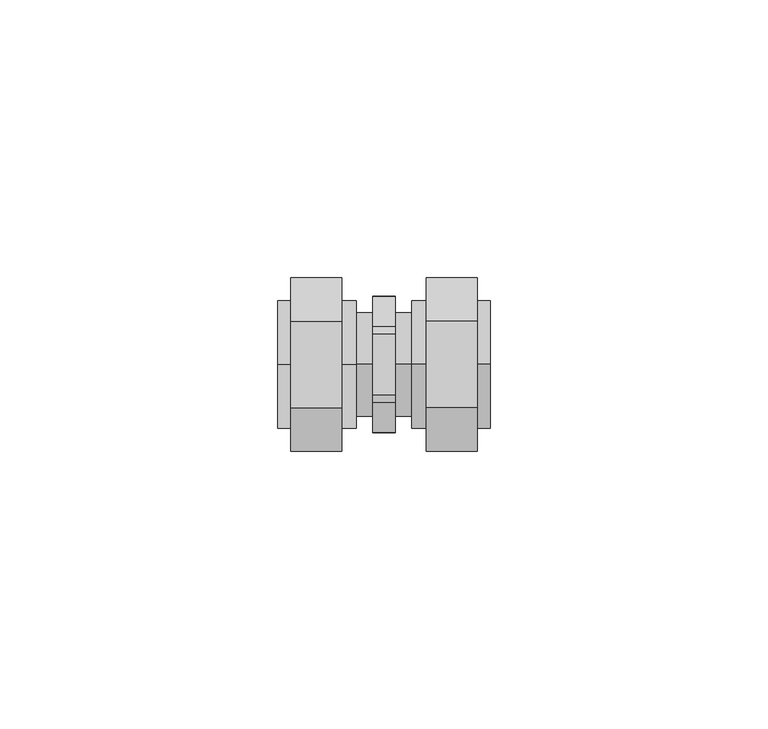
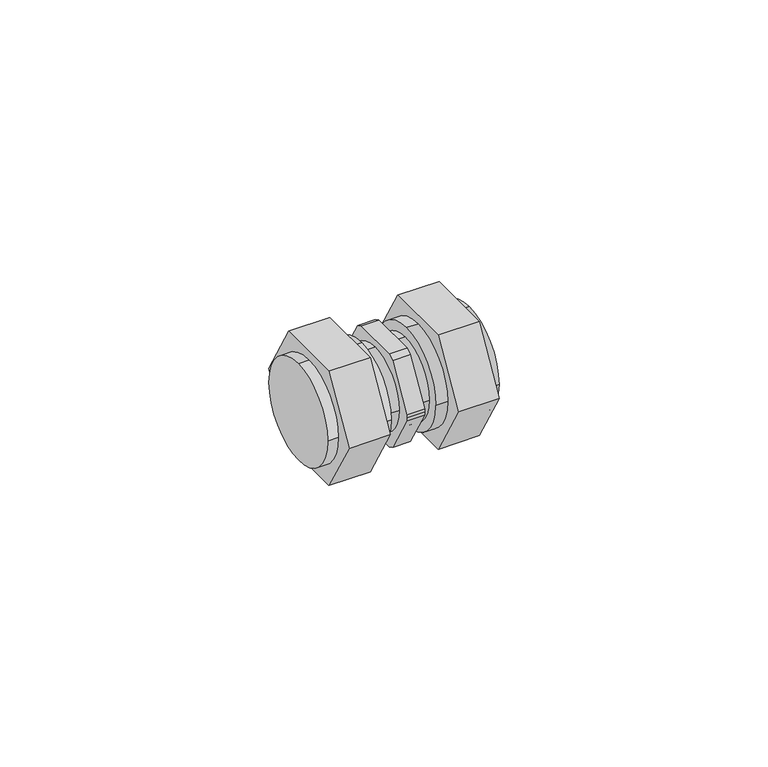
"""IFC4 building model written with IfcOpenShell, lengths in millimetres: pipe fitting geometry, HC-Kształtka-ParaForma-Tweetop-PERT-Złączka : Tweetop."""

import ifcopenshell
import ifcopenshell.guid

model = None  # the IFC model being written
_history = None  # IfcOwnerHistory: only IFC2X3 demands one
_inside = {}  # id of a spatial element -> (the spatial element, [elements in it])
_under = {}  # id of a project, library or spatial element -> (it, [spatial elements below it])
_declared = {}  # id of a project -> (the project, [libraries it declares])
_typed = {}  # id of a type object -> (the type object, [elements of that type])
_made_of = {}  # id of a material, layer set ... -> (it, [elements and type objects made of it])


def new_model(schema):
    """Start an empty IFC model of exactly this schema.

    Asked for "IFC4X3", IfcOpenShell would pick the latest addendum, in which some entities
    have other attributes; the version numbers below select the first issue.
    IFC2X3 requires an IfcOwnerHistory on every rooted entity: one is made here for all.
    """
    global model, _history
    if schema == "IFC4X3":
        model = ifcopenshell.file(schema_version=(4, 3, 0, 0))
    else:
        model = ifcopenshell.file(schema=schema)
    _inside.clear()
    _under.clear()
    _declared.clear()
    _typed.clear()
    _made_of.clear()
    _history = None
    if model.schema == "IFC2X3":
        org = make("IfcOrganization", Name="unknown")
        user = make(
            "IfcPersonAndOrganization",
            ThePerson=make("IfcPerson", FamilyName="unknown"),
            TheOrganization=org,
        )
        app = make(
            "IfcApplication",
            ApplicationDeveloper=org,
            Version="unknown",
            ApplicationFullName="unknown",
            ApplicationIdentifier="unknown",
        )
        _history = make(
            "IfcOwnerHistory",
            OwningUser=user,
            OwningApplication=app,
            ChangeAction="ADDED",
            CreationDate=0,
        )
    return model


def make(cls, **values):
    """One entity of the class cls with the attributes given. An attribute that is None is left unset."""
    return model.create_entity(
        cls, **{name: value for name, value in values.items() if value is not None}
    )


def rooted(cls, **values):
    """An entity with a GlobalId (a new one), such as an element, a storey or a relation."""
    return make(cls, GlobalId=ifcopenshell.guid.new(), OwnerHistory=_history, **values)


def si_unit(unit_type, name, prefix=None):
    """IfcSIUnit, for example si_unit("LENGTHUNIT", "METRE", prefix="MILLI")."""
    return make("IfcSIUnit", UnitType=unit_type, Prefix=prefix, Name=name)


def assignment(units):
    """IfcUnitAssignment: the units of a project."""
    return None if units is None else make("IfcUnitAssignment", Units=units)


def point(xyz):
    """IfcCartesianPoint."""
    return None if xyz is None else make("IfcCartesianPoint", Coordinates=xyz)


def direction(xyz):
    """IfcDirection."""
    return None if xyz is None else make("IfcDirection", DirectionRatios=xyz)


def frame(location, z_axis=None, x_axis=None):
    """IfcAxis2Placement3D, a coordinate frame: its origin and axes. An axis left out is left unset."""
    return make(
        "IfcAxis2Placement3D",
        Location=point(location),
        Axis=direction(z_axis),
        RefDirection=direction(x_axis),
    )


def origin():
    """The frame at (0, 0, 0) with its axes left unset."""
    return frame((0.0, 0.0, 0.0))


def place(relative_to, where):
    """IfcLocalPlacement: puts the frame where relative to a parent placement (None: the world)."""
    return make(
        "IfcLocalPlacement", PlacementRelTo=relative_to, RelativePlacement=where
    )


def context(
    kind, dimensions, precision=None, world=None, true_north=None, identifier=None
):
    """IfcGeometricRepresentationContext, for example the 3D "Model" context."""
    return make(
        "IfcGeometricRepresentationContext",
        ContextIdentifier=identifier,
        ContextType=kind,
        CoordinateSpaceDimension=dimensions,
        Precision=precision,
        WorldCoordinateSystem=world,
        TrueNorth=true_north,
    )


def project(units=None, contexts=None):
    """IfcProject with its units and contexts."""
    return rooted(
        "IfcProject",
        Name="project",
        RepresentationContexts=contexts,
        UnitsInContext=assignment(units),
    )


def spatial(cls, under=None, at=None, **own):
    """A site, building, storey or space (cls), placed at a placement, below another one or the project."""
    s = rooted(cls, ObjectPlacement=at, **own)
    if under is not None:
        _under.setdefault(under.id(), (under, []))[1].append(s)
    return s


def circle_curve(where, radius):
    """IfcCircle in the frame where."""
    return make("IfcCircle", Position=where, Radius=radius)


def shape(context_of_items, identifier, shape_type, items):
    """IfcShapeRepresentation: the items that make up one representation, for example the "Body"."""
    return make(
        "IfcShapeRepresentation",
        ContextOfItems=context_of_items,
        RepresentationIdentifier=identifier,
        RepresentationType=shape_type,
        Items=items,
    )


def source(mapping_origin, context_of_items, identifier, shape_type, items):
    """IfcRepresentationMap: a shape defined once, which mapped items show again and again."""
    return make(
        "IfcRepresentationMap",
        MappingOrigin=mapping_origin,
        MappedRepresentation=shape(context_of_items, identifier, shape_type, items),
    )


def transform(
    local_origin,
    x_axis=None,
    y_axis=None,
    z_axis=None,
    scale=None,
    scale2=None,
    scale3=None,
    uniform=True,
):
    """IfcCartesianTransformationOperator3D, or its non-uniform kind. x_axis, y_axis, z_axis: its Axis1, 2, 3."""
    if uniform:
        return make(
            "IfcCartesianTransformationOperator3D",
            Axis1=direction(x_axis),
            Axis2=direction(y_axis),
            LocalOrigin=point(local_origin),
            Scale=scale,
            Axis3=direction(z_axis),
        )
    return make(
        "IfcCartesianTransformationOperator3DnonUniform",
        Axis1=direction(x_axis),
        Axis2=direction(y_axis),
        LocalOrigin=point(local_origin),
        Scale=scale,
        Axis3=direction(z_axis),
        Scale2=scale2,
        Scale3=scale3,
    )


def mapped(mapping_source, mapping_target):
    """IfcMappedItem: shows the shape of a source again, moved by a transform."""
    return make(
        "IfcMappedItem", MappingSource=mapping_source, MappingTarget=mapping_target
    )


def made_of(thing, what):
    """Note that an element or type object is made of a material, layer set ...; save() writes the relation."""
    if what is not None:
        _made_of.setdefault(what.id(), (what, []))[1].append(thing)
    return thing


def element(
    cls,
    number,
    at=None,
    inside=None,
    cuts=None,
    type_object=None,
    material=None,
    context=None,
    identifier="Body",
    shape_type=None,
    held_by="IfcProductDefinitionShape",
    body=None,
    shapes=None,
    **own,
):
    """One element of the class cls, such as IfcWall. Its Tag is "e" and its number.

    at: its placement. inside: the storey or other place that contains it. cuts: it is an
    opening in that element (IfcRelVoidsElement). A single representation is given by context,
    identifier, shape_type and body (its items); several are given by shapes. held_by: the class
    of the entity that holds the representations. save() writes the other relations.
    """
    e = rooted(cls, Tag="e%d" % number, ObjectPlacement=at, **own)
    if body is not None:
        shapes = [shape(context, identifier, shape_type, body)]
    if shapes is not None:
        e.Representation = make(held_by, Representations=shapes)
    if inside is not None:
        _inside.setdefault(inside.id(), (inside, []))[1].append(e)
    if cuts is not None:
        rooted(
            "IfcRelVoidsElement", RelatingBuildingElement=cuts, RelatedOpeningElement=e
        )
    if type_object is not None:
        _typed.setdefault(type_object.id(), (type_object, []))[1].append(e)
    return made_of(e, material)


def aggregate(whole, parts):
    """IfcRelAggregates: a whole, such as a stair, and the parts it consists of."""
    return rooted("IfcRelAggregates", RelatingObject=whole, RelatedObjects=parts)


def save(model, path):
    """Write the relations noted so far, then the file.

    IfcRelAggregates (storeys below a building ...), IfcRelContainedInSpatialStructure (elements
    in a storey), IfcRelDefinesByType, IfcRelAssociatesMaterial and IfcRelDeclares: one each for
    every whole, place, type object, material and project.
    """
    for whole, parts in _under.values():
        aggregate(whole, parts)
    for where, things in _inside.values():
        rooted(
            "IfcRelContainedInSpatialStructure",
            RelatedElements=things,
            RelatingStructure=where,
        )
    for kind, things in _typed.values():
        rooted("IfcRelDefinesByType", RelatedObjects=things, RelatingType=kind)
    for what, things in _made_of.values():
        rooted("IfcRelAssociatesMaterial", RelatedObjects=things, RelatingMaterial=what)
    for by, libraries in _declared.values():
        rooted("IfcRelDeclares", RelatingContext=by, RelatedDefinitions=libraries)
    model.write(path)


def plane_surface(at):
    """IfcPlane: the flat surface through the origin of the frame at, square to its z axis."""
    return make("IfcPlane", Position=at)


def cylinder_surface(at, radius):
    """IfcCylindricalSurface: all points at the distance radius from the z axis of the frame at."""
    return make("IfcCylindricalSurface", Position=at, Radius=radius)


def advanced_brep(points, edges, surfaces, faces):
    """IfcAdvancedBrep: a solid bounded by faces that lie on surfaces and meet in shared edges.

    An edge is (start, end): straight between two places in points (the first is 0);
    or (start, end, curve); or (start, end, curve, False) where it runs against its curve.
    A face is (place in surfaces, loops), or (place, loops, False) where it looks against
    its surface's normal. A loop lists edges by number (the first is 1), with a minus sign
    where the edge is run from its end to its start. The first loop is the outer one.
    """
    corners = [point(p) for p in points]
    vertices = [make("IfcVertexPoint", VertexGeometry=c) for c in corners]
    made = []
    for start, end, *more in edges:
        made.append(
            make(
                "IfcEdgeCurve",
                EdgeStart=vertices[start],
                EdgeEnd=vertices[end],
                EdgeGeometry=more[0] if more else make("IfcPolyline", Points=[corners[start], corners[end]]),
                SameSense=more[1] if len(more) > 1 else True,
            )
        )
    hull = []
    for where, loops, *sense in faces:
        bounds = []
        for j, loop in enumerate(loops):
            ring = [make("IfcOrientedEdge", EdgeElement=made[abs(k) - 1], Orientation=k > 0) for k in loop]
            bounds.append(
                make(
                    "IfcFaceOuterBound" if j == 0 else "IfcFaceBound",
                    Bound=make("IfcEdgeLoop", EdgeList=ring),
                    Orientation=True,
                )
            )
        hull.append(make("IfcAdvancedFace", Bounds=bounds, FaceSurface=surfaces[where], SameSense=sense[0] if sense else True))
    return make("IfcAdvancedBrep", Outer=make("IfcClosedShell", CfsFaces=hull))


def pipe_fitting_8bebbaeb(model_context):
    return source(origin(), model_context, "Body", "AdvancedBrep", [
        advanced_brep(
        [(19.1, 0.0, -11.45), (19.1, -11.45, 0.0), (16.8, -11.45, 0.0), (16.8, 0.0, -11.45), (5.0, -11.45, 0.0), (5.0, 0.0, -11.45), (7.6, 0.0, -11.45), (7.6, -11.45, 0.0), (5.0, 0.0, 11.45), (5.0, 11.45, 0.0), (7.6, 7.7942286, -13.5), (7.6, -7.7942286, -13.5), (7.6, -15.5884573, 0.0), (7.6, -7.7942286, 13.5), (7.6, 7.7942286, 13.5), (7.6, 15.5884573, 0.0), (7.6, 0.0, 11.45), (7.6, 11.45, 0.0), (16.8, 7.7942286, -13.5), (16.8, 15.5884573, 0.0), (16.8, 7.7942286, 13.5), (16.8, -7.7942286, 13.5), (16.8, -15.5884573, 0.0), (16.8, -7.7942286, -13.5), (16.8, 0.0, 11.45), (16.8, 11.45, 0.0), (19.1, 0.0, 11.45), (19.1, 11.45, 0.0)],
        [
            (0, 1, circle_curve(frame((19.1, 0.0, 0.0), z_axis=(-1.0, 0.0, 0.0), x_axis=(0.0, 1.0000000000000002, 0.0)), 11.45)),
            (1, 2),
            (2, 3, circle_curve(frame((16.8, 0.0, 0.0), z_axis=(1.0, 0.0, 0.0), x_axis=(0.0, 1.0000000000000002, 0.0)), 11.45)),
            (3, 0),
            (4, 5, circle_curve(frame((5.0, 0.0, 0.0), z_axis=(1.0, 0.0, 0.0), x_axis=(0.0, 1.0000000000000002, 0.0)), 11.45)),
            (5, 6),
            (6, 7, circle_curve(frame((7.6, 0.0, 0.0), z_axis=(-1.0, 0.0, 0.0), x_axis=(0.0, 1.0000000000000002, 0.0)), 11.45)),
            (7, 4),
            (8, 9, circle_curve(frame((5.0, 0.0, 0.0), z_axis=(-1.0, 0.0, 0.0), x_axis=(0.0, 1.0000000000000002, 0.0)), 11.45)),
            (9, 5, circle_curve(frame((5.0, 0.0, 0.0), z_axis=(-1.0, 0.0, 0.0), x_axis=(0.0, 1.0000000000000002, 0.0)), 11.45)),
            (4, 8, circle_curve(frame((5.0, 0.0, 0.0), z_axis=(-1.0, 0.0, 0.0), x_axis=(0.0, 1.0000000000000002, 0.0)), 11.45)),
            (10, 11),
            (11, 12),
            (12, 13),
            (13, 14),
            (14, 15),
            (15, 10),
            (16, 7, circle_curve(frame((7.6, 0.0, 0.0), z_axis=(1.0, 0.0, 0.0), x_axis=(0.0, 1.0000000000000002, 0.0)), 11.45)),
            (6, 17, circle_curve(frame((7.6, 0.0, 0.0), z_axis=(1.0, 0.0, 0.0), x_axis=(0.0, 1.0000000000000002, 0.0)), 11.45)),
            (17, 16, circle_curve(frame((7.6, 0.0, 0.0), z_axis=(1.0, 0.0, 0.0), x_axis=(0.0, 1.0000000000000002, 0.0)), 11.45)),
            (18, 19),
            (19, 20),
            (20, 21),
            (21, 22),
            (22, 23),
            (23, 18),
            (2, 24, circle_curve(frame((16.8, 0.0, 0.0), z_axis=(-1.0, 0.0, 0.0), x_axis=(0.0, 1.0000000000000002, 0.0)), 11.45)),
            (24, 25, circle_curve(frame((16.8, 0.0, 0.0), z_axis=(-1.0, 0.0, 0.0), x_axis=(0.0, 1.0000000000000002, 0.0)), 11.45)),
            (25, 3, circle_curve(frame((16.8, 0.0, 0.0), z_axis=(-1.0, 0.0, 0.0), x_axis=(0.0, 1.0000000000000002, 0.0)), 11.45)),
            (10, 18),
            (23, 11),
            (22, 12),
            (21, 13),
            (20, 14),
            (19, 15),
            (1, 26, circle_curve(frame((19.1, 0.0, 0.0), z_axis=(-1.0, 0.0, 0.0), x_axis=(0.0, 1.0000000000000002, 0.0)), 11.45)),
            (26, 24),
            (16, 8),
            (27, 0, circle_curve(frame((19.1, 0.0, 0.0), z_axis=(-1.0, 0.0, 0.0), x_axis=(0.0, 1.0000000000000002, 0.0)), 11.45)),
            (25, 27),
            (9, 17),
            (26, 27, circle_curve(frame((19.1, 0.0, 0.0), z_axis=(-1.0, 0.0, 0.0), x_axis=(0.0, 1.0000000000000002, 0.0)), 11.45)),
        ],
        [
            cylinder_surface(frame((5.0, 0.0, 0.0), z_axis=(-1.0000000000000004, 0.0, 0.0), x_axis=(0.0, 1.0000000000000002, 0.0)), 11.45),
            plane_surface(frame((5.0, 0.0, 0.0), z_axis=(-1.0, 0.0, 0.0), x_axis=(0.0, 0.0, 1.0))),
            plane_surface(frame((7.6, 0.0, 0.0), z_axis=(-1.0, 0.0, 0.0), x_axis=(0.0, 0.0, 1.0))),
            plane_surface(frame((16.8, 0.0, 0.0), z_axis=(1.0, 0.0, 0.0), x_axis=(0.0, 0.0, 1.0))),
            plane_surface(frame((7.6, 7.7942286, -13.5), z_axis=(0.0, 0.0, -1.0), x_axis=(1.0, 0.0, 0.0))),
            plane_surface(frame((7.6, -7.7942286, -13.5), z_axis=(0.0, -0.8660254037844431, -0.49999999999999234), x_axis=(1.0, 0.0, 0.0))),
            plane_surface(frame((7.6, -15.5884573, 0.0), z_axis=(0.0, -0.8660254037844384, 0.5000000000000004), x_axis=(1.0, 0.0, 0.0))),
            plane_surface(frame((7.6, -7.7942286, 13.5), z_axis=(0.0, 0.0, 1.0), x_axis=(1.0, 0.0, 0.0))),
            plane_surface(frame((7.6, 7.7942286, 13.5), z_axis=(0.0, 0.8660254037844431, 0.4999999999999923), x_axis=(1.0, 0.0, 0.0))),
            plane_surface(frame((7.6, 15.5884573, 0.0), z_axis=(0.0, 0.866025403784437, -0.5000000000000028), x_axis=(1.0, 0.0, 0.0))),
            plane_surface(frame((19.1, 0.0, 0.0), z_axis=(1.0, 0.0, 0.0), x_axis=(0.0, 0.0, 1.0))),
        ],
        [
            (0, [[1, 2, 3, 4]]),
            (0, [[5, 6, 7, 8]]),
            (1, [[9, 10, -5, 11]]),
            (2, [[12, 13, 14, 15, 16, 17], [18, -7, 19, 20]]),
            (3, [[21, 22, 23, 24, 25, 26], [27, 28, 29, -3]]),
            (4, [[-12, 30, -26, 31]]),
            (5, [[-13, -31, -25, 32]]),
            (6, [[-14, -32, -24, 33]]),
            (7, [[-15, -33, -23, 34]]),
            (8, [[-16, -34, -22, 35]]),
            (9, [[-17, -35, -21, -30]]),
            (0, [[36, 37, -27, -2]]),
            (0, [[-11, -8, -18, 38]]),
            (0, [[39, -4, -29, 40]]),
            (0, [[-10, 41, -19, -6]]),
            (0, [[42, -40, -28, -37]]),
            (0, [[-9, -38, -20, -41]]),
            (10, [[-36, -1, -39, -42]]),
        ],
    ),
        advanced_brep(
        [(-19.1, 0.0, -11.45), (-19.1, 11.45, 0.0), (-16.8, 11.45, 0.0), (-16.8, 0.0, -11.45), (-5.0, 11.45, 0.0), (-5.0, 0.0, -11.45), (-7.6, 0.0, -11.45), (-7.6, 11.45, 0.0), (-5.0, 0.0, 11.45), (-5.0, -11.45, 0.0), (-7.6, -7.7942286, -13.5), (-7.6, 7.7942286, -13.5), (-7.6, 15.5884573, 0.0), (-7.6, 7.7942286, 13.5), (-7.6, -7.7942286, 13.5), (-7.6, -15.5884573, 0.0), (-7.6, 0.0, 11.45), (-7.6, -11.45, 0.0), (-16.8, -7.7942286, -13.5), (-16.8, -15.5884573, 0.0), (-16.8, -7.7942286, 13.5), (-16.8, 7.7942286, 13.5), (-16.8, 15.5884573, 0.0), (-16.8, 7.7942286, -13.5), (-16.8, 0.0, 11.45), (-16.8, -11.45, 0.0), (-19.1, 0.0, 11.45), (-19.1, -11.45, 0.0)],
        [
            (0, 1, circle_curve(frame((-19.1, 0.0, 0.0), z_axis=(1.0, 0.0, 0.0), x_axis=(0.0, -1.0, 0.0)), 11.45)),
            (1, 2),
            (2, 3, circle_curve(frame((-16.8, 0.0, 0.0), z_axis=(-1.0, 0.0, 0.0), x_axis=(0.0, -1.0, 0.0)), 11.45)),
            (3, 0),
            (4, 5, circle_curve(frame((-5.0, 0.0, 0.0), z_axis=(-1.0, 0.0, 0.0), x_axis=(0.0, -1.0, 0.0)), 11.45)),
            (5, 6),
            (6, 7, circle_curve(frame((-7.6, 0.0, 0.0), z_axis=(1.0, 0.0, 0.0), x_axis=(0.0, -1.0, 0.0)), 11.45)),
            (7, 4),
            (8, 9, circle_curve(frame((-5.0, 0.0, 0.0), z_axis=(1.0, 0.0, 0.0), x_axis=(0.0, -1.0, 0.0)), 11.45)),
            (9, 5, circle_curve(frame((-5.0, 0.0, 0.0), z_axis=(1.0, 0.0, 0.0), x_axis=(0.0, -1.0, 0.0)), 11.45)),
            (4, 8, circle_curve(frame((-5.0, 0.0, 0.0), z_axis=(1.0, 0.0, 0.0), x_axis=(0.0, -1.0, 0.0)), 11.45)),
            (10, 11),
            (11, 12),
            (12, 13),
            (13, 14),
            (14, 15),
            (15, 10),
            (16, 7, circle_curve(frame((-7.6, 0.0, 0.0), z_axis=(-1.0, 0.0, 0.0), x_axis=(0.0, -1.0, 0.0)), 11.45)),
            (6, 17, circle_curve(frame((-7.6, 0.0, 0.0), z_axis=(-1.0, 0.0, 0.0), x_axis=(0.0, -1.0, 0.0)), 11.45)),
            (17, 16, circle_curve(frame((-7.6, 0.0, 0.0), z_axis=(-1.0, 0.0, 0.0), x_axis=(0.0, -1.0, 0.0)), 11.45)),
            (18, 19),
            (19, 20),
            (20, 21),
            (21, 22),
            (22, 23),
            (23, 18),
            (2, 24, circle_curve(frame((-16.8, 0.0, 0.0), z_axis=(1.0, 0.0, 0.0), x_axis=(0.0, -1.0, 0.0)), 11.45)),
            (24, 25, circle_curve(frame((-16.8, 0.0, 0.0), z_axis=(1.0, 0.0, 0.0), x_axis=(0.0, -1.0, 0.0)), 11.45)),
            (25, 3, circle_curve(frame((-16.8, 0.0, 0.0), z_axis=(1.0, 0.0, 0.0), x_axis=(0.0, -1.0, 0.0)), 11.45)),
            (10, 18),
            (23, 11),
            (22, 12),
            (21, 13),
            (20, 14),
            (19, 15),
            (1, 26, circle_curve(frame((-19.1, 0.0, 0.0), z_axis=(1.0, 0.0, 0.0), x_axis=(0.0, -1.0, 0.0)), 11.45)),
            (26, 24),
            (16, 8),
            (27, 0, circle_curve(frame((-19.1, 0.0, 0.0), z_axis=(1.0, 0.0, 0.0), x_axis=(0.0, -1.0, 0.0)), 11.45)),
            (25, 27),
            (9, 17),
            (26, 27, circle_curve(frame((-19.1, 0.0, 0.0), z_axis=(1.0, 0.0, 0.0), x_axis=(0.0, -1.0, 0.0)), 11.45)),
        ],
        [
            cylinder_surface(frame((-5.0, 0.0, 0.0), z_axis=(1.0, 0.0, 0.0), x_axis=(0.0, -1.0, 0.0)), 11.45),
            plane_surface(frame((-5.0, 0.0, 0.0), z_axis=(1.0, 0.0, 0.0), x_axis=(0.0, 0.0, 1.0))),
            plane_surface(frame((-7.6, 0.0, 0.0), z_axis=(1.0, 0.0, 0.0), x_axis=(0.0, 0.0, 1.0))),
            plane_surface(frame((-16.8, 0.0, 0.0), z_axis=(-1.0, 0.0, 0.0), x_axis=(0.0, 0.0, 1.0))),
            plane_surface(frame((-7.6, -7.7942286, -13.5), z_axis=(0.0, 0.0, -1.0), x_axis=(-1.0, 0.0, 0.0))),
            plane_surface(frame((-7.6, 7.7942286, -13.5), z_axis=(0.0, 0.8660254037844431, -0.4999999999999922), x_axis=(-1.0, 0.0, 0.0))),
            plane_surface(frame((-7.6, 15.5884573, 0.0), z_axis=(0.0, 0.8660254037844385, 0.5000000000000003), x_axis=(-1.0, 0.0, 0.0))),
            plane_surface(frame((-7.6, 7.7942286, 13.5), z_axis=(0.0, 0.0, 1.0), x_axis=(-1.0, 0.0, 0.0))),
            plane_surface(frame((-7.6, -7.7942286, 13.5), z_axis=(0.0, -0.8660254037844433, 0.4999999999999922), x_axis=(-1.0, 0.0, 0.0))),
            plane_surface(frame((-7.6, -15.5884573, 0.0), z_axis=(0.0, -0.8660254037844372, -0.5000000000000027), x_axis=(-1.0, 0.0, 0.0))),
            plane_surface(frame((-19.1, 0.0, 0.0), z_axis=(-1.0, 0.0, 0.0), x_axis=(0.0, 0.0, 1.0))),
        ],
        [
            (0, [[1, 2, 3, 4]]),
            (0, [[5, 6, 7, 8]]),
            (1, [[9, 10, -5, 11]]),
            (2, [[12, 13, 14, 15, 16, 17], [18, -7, 19, 20]]),
            (3, [[21, 22, 23, 24, 25, 26], [27, 28, 29, -3]]),
            (4, [[-12, 30, -26, 31]]),
            (5, [[-13, -31, -25, 32]]),
            (6, [[-14, -32, -24, 33]]),
            (7, [[-15, -33, -23, 34]]),
            (8, [[-16, -34, -22, 35]]),
            (9, [[-17, -35, -21, -30]]),
            (0, [[36, 37, -27, -2]]),
            (0, [[-11, -8, -18, 38]]),
            (0, [[39, -4, -29, 40]]),
            (0, [[-10, 41, -19, -6]]),
            (0, [[42, -40, -28, -37]]),
            (0, [[-9, -38, -20, -41]]),
            (10, [[-36, -1, -39, -42]]),
        ],
    ),
        advanced_brep(
        [(-2.0, 5.5036352, -11.0), (-2.0, -5.5036352, -11.0), (-2.0, -6.7744619, -10.2662879), (-2.0, -12.278097, -0.7337121), (-2.0, -12.3, 0.0), (-2.0, -12.278097, 0.7337121), (-2.0, -6.7744619, 10.2662879), (-2.0, -5.5036352, 11.0), (-2.0, 5.5036352, 11.0), (-2.0, 6.7744619, 10.2662879), (-2.0, 12.278097, 0.7337121), (-2.0, 12.3, 0.0), (-2.0, 12.278097, -0.7337121), (-2.0, 6.7744619, -10.2662879), (-2.0, 0.0, 9.3), (-2.0, -9.3, 0.0), (-2.0, 0.0, -9.3), (-2.0, 9.3, 0.0), (2.0, 6.7744619, -10.2662879), (2.0, 12.278097, -0.7337121), (2.0, 12.3, 0.0), (2.0, 12.278097, 0.7337121), (2.0, 6.7744619, 10.2662879), (2.0, 5.5036352, 11.0), (2.0, -5.5036352, 11.0), (2.0, -6.7744619, 10.2662879), (2.0, -12.278097, 0.7337121), (2.0, -12.3, 0.0), (2.0, -12.278097, -0.7337121), (2.0, -6.7744619, -10.2662879), (2.0, -5.5036352, -11.0), (2.0, 5.5036352, -11.0), (2.0, -9.3, 0.0), (2.0, 0.0, 9.3), (2.0, 9.3, 0.0), (2.0, 0.0, -9.3), (-5.0, 0.0, 9.3), (-5.0, 9.3, 0.0), (-5.0, 0.0, -9.3), (-5.0, -9.3, 0.0), (5.0, 0.0, 9.3), (5.0, -9.3, 0.0), (5.0, 0.0, -9.3), (5.0, 9.3, 0.0)],
        [
            (0, 1),
            (1, 2, circle_curve(frame((-2.0, 0.0, 0.0), z_axis=(-1.0, 0.0, 0.0), x_axis=(0.0, 1.0, 0.0)), 12.3)),
            (2, 3),
            (3, 4, circle_curve(frame((-2.0, 0.0, 0.0), z_axis=(-1.0, 0.0, 0.0), x_axis=(0.0, 1.0, 0.0)), 12.3)),
            (4, 5, circle_curve(frame((-2.0, 0.0, 0.0), z_axis=(-1.0, 0.0, 0.0), x_axis=(0.0, 1.0, 0.0)), 12.3)),
            (5, 6),
            (6, 7, circle_curve(frame((-2.0, 0.0, 0.0), z_axis=(-1.0, 0.0, 0.0), x_axis=(0.0, 1.0, 0.0)), 12.3)),
            (7, 8),
            (8, 9, circle_curve(frame((-2.0, 0.0, 0.0), z_axis=(-1.0, 0.0, 0.0), x_axis=(0.0, 1.0, 0.0)), 12.3)),
            (9, 10),
            (10, 11, circle_curve(frame((-2.0, 0.0, 0.0), z_axis=(-1.0, 0.0, 0.0), x_axis=(0.0, 1.0, 0.0)), 12.3)),
            (11, 12, circle_curve(frame((-2.0, 0.0, 0.0), z_axis=(-1.0, 0.0, 0.0), x_axis=(0.0, 1.0, 0.0)), 12.3)),
            (12, 13),
            (13, 0, circle_curve(frame((-2.0, 0.0, 0.0), z_axis=(-1.0, 0.0, 0.0), x_axis=(0.0, 1.0, 0.0)), 12.3)),
            (14, 15, circle_curve(frame((-2.0, 0.0, 0.0), z_axis=(1.0, 0.0, 0.0), x_axis=(0.0, 1.0, 0.0)), 9.3)),
            (15, 16, circle_curve(frame((-2.0, 0.0, 0.0), z_axis=(1.0, 0.0, 0.0), x_axis=(0.0, 1.0, 0.0)), 9.3)),
            (16, 17, circle_curve(frame((-2.0, 0.0, 0.0), z_axis=(1.0, 0.0, 0.0), x_axis=(0.0, 1.0, 0.0)), 9.3)),
            (17, 14, circle_curve(frame((-2.0, 0.0, 0.0), z_axis=(1.0, 0.0, 0.0), x_axis=(0.0, 1.0, 0.0)), 9.3)),
            (18, 19),
            (19, 20, circle_curve(frame((2.0, 0.0, 0.0), z_axis=(1.0, 0.0, 0.0), x_axis=(0.0, 1.0, 0.0)), 12.3)),
            (20, 21, circle_curve(frame((2.0, 0.0, 0.0), z_axis=(1.0, 0.0, 0.0), x_axis=(0.0, 1.0, 0.0)), 12.3)),
            (21, 22),
            (22, 23, circle_curve(frame((2.0, 0.0, 0.0), z_axis=(1.0, 0.0, 0.0), x_axis=(0.0, 1.0, 0.0)), 12.3)),
            (23, 24),
            (24, 25, circle_curve(frame((2.0, 0.0, 0.0), z_axis=(1.0, 0.0, 0.0), x_axis=(0.0, 1.0, 0.0)), 12.3)),
            (25, 26),
            (26, 27, circle_curve(frame((2.0, 0.0, 0.0), z_axis=(1.0, 0.0, 0.0), x_axis=(0.0, 1.0, 0.0)), 12.3)),
            (27, 28, circle_curve(frame((2.0, 0.0, 0.0), z_axis=(1.0, 0.0, 0.0), x_axis=(0.0, 1.0, 0.0)), 12.3)),
            (28, 29),
            (29, 30, circle_curve(frame((2.0, 0.0, 0.0), z_axis=(1.0, 0.0, 0.0), x_axis=(0.0, 1.0, 0.0)), 12.3)),
            (30, 31),
            (31, 18, circle_curve(frame((2.0, 0.0, 0.0), z_axis=(1.0, 0.0, 0.0), x_axis=(0.0, 1.0, 0.0)), 12.3)),
            (32, 33, circle_curve(frame((2.0, 0.0, 0.0), z_axis=(-1.0, 0.0, 0.0), x_axis=(0.0, 1.0, 0.0)), 9.3)),
            (33, 34, circle_curve(frame((2.0, 0.0, 0.0), z_axis=(-1.0, 0.0, 0.0), x_axis=(0.0, 1.0, 0.0)), 9.3)),
            (34, 35, circle_curve(frame((2.0, 0.0, 0.0), z_axis=(-1.0, 0.0, 0.0), x_axis=(0.0, 1.0, 0.0)), 9.3)),
            (35, 32, circle_curve(frame((2.0, 0.0, 0.0), z_axis=(-1.0, 0.0, 0.0), x_axis=(0.0, 1.0, 0.0)), 9.3)),
            (1, 30),
            (29, 2),
            (13, 18),
            (31, 0),
            (11, 20),
            (19, 12),
            (27, 4),
            (3, 28),
            (6, 25),
            (24, 7),
            (8, 23),
            (22, 9),
            (10, 21),
            (26, 5),
            (36, 37, circle_curve(frame((-5.0, 0.0, 0.0), z_axis=(-1.0, 0.0, 0.0), x_axis=(0.0, 1.0, 0.0)), 9.3)),
            (37, 38, circle_curve(frame((-5.0, 0.0, 0.0), z_axis=(-1.0, 0.0, 0.0), x_axis=(0.0, 1.0, 0.0)), 9.3)),
            (38, 39, circle_curve(frame((-5.0, 0.0, 0.0), z_axis=(-1.0, 0.0, 0.0), x_axis=(0.0, 1.0, 0.0)), 9.3)),
            (39, 36, circle_curve(frame((-5.0, 0.0, 0.0), z_axis=(-1.0, 0.0, 0.0), x_axis=(0.0, 1.0, 0.0)), 9.3)),
            (40, 41, circle_curve(frame((5.0, 0.0, 0.0), z_axis=(1.0, 0.0, 0.0), x_axis=(0.0, 1.0, 0.0)), 9.3)),
            (41, 42, circle_curve(frame((5.0, 0.0, 0.0), z_axis=(1.0, 0.0, 0.0), x_axis=(0.0, 1.0, 0.0)), 9.3)),
            (42, 43, circle_curve(frame((5.0, 0.0, 0.0), z_axis=(1.0, 0.0, 0.0), x_axis=(0.0, 1.0, 0.0)), 9.3)),
            (43, 40, circle_curve(frame((5.0, 0.0, 0.0), z_axis=(1.0, 0.0, 0.0), x_axis=(0.0, 1.0, 0.0)), 9.3)),
            (39, 15),
            (14, 36),
            (40, 33),
            (32, 41),
            (37, 17),
            (16, 38),
            (42, 35),
            (34, 43),
        ],
        [
            plane_surface(frame((-2.0, 0.0, 0.0), z_axis=(-1.0, 0.0, 0.0), x_axis=(0.0, 0.0, 1.0))),
            plane_surface(frame((2.0, 0.0, 0.0), z_axis=(1.0, 0.0, 0.0), x_axis=(0.0, 0.0, 1.0))),
            cylinder_surface(frame((-2.0, 0.0, 0.0), z_axis=(1.0, 0.0, 0.0), x_axis=(0.0, 1.0, 0.0)), 12.3),
            plane_surface(frame((-5.0, 0.0, 0.0), z_axis=(-1.0, 0.0, 0.0), x_axis=(0.0, 0.0, 1.0))),
            plane_surface(frame((5.0, 0.0, 0.0), z_axis=(1.0, 0.0, 0.0), x_axis=(0.0, 0.0, 1.0))),
            cylinder_surface(frame((-5.0, 0.0, 0.0), z_axis=(-1.0, 0.0, 0.0), x_axis=(0.0, 1.0, 0.0)), 9.3),
            plane_surface(frame((-2.0, 6.350853, -11.0), z_axis=(0.0, 0.0, -1.0), x_axis=(1.0, 0.0, 0.0))),
            plane_surface(frame((-2.0, -6.350853, -11.0), z_axis=(0.0, -0.8660254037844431, -0.4999999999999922), x_axis=(1.0, 0.0, 0.0))),
            plane_surface(frame((-2.0, -12.7017059, 0.0), z_axis=(0.0, -0.8660254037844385, 0.5000000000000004), x_axis=(1.0, 0.0, 0.0))),
            plane_surface(frame((-2.0, -6.350853, 11.0), z_axis=(0.0, 0.0, 1.0), x_axis=(1.0, 0.0, 0.0))),
            plane_surface(frame((-2.0, 6.350853, 11.0), z_axis=(0.0, 0.8660254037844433, 0.4999999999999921), x_axis=(1.0, 0.0, 0.0))),
            plane_surface(frame((-2.0, 12.7017059, 0.0), z_axis=(0.0, 0.8660254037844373, -0.5000000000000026), x_axis=(1.0, 0.0, 0.0))),
        ],
        [
            (0, [[1, 2, 3, 4, 5, 6, 7, 8, 9, 10, 11, 12, 13, 14], [15, 16, 17, 18]]),
            (1, [[19, 20, 21, 22, 23, 24, 25, 26, 27, 28, 29, 30, 31, 32], [33, 34, 35, 36]]),
            (2, [[-2, 37, -30, 38]]),
            (2, [[-14, 39, -32, 40]]),
            (2, [[41, -20, 42, -12]]),
            (2, [[43, -4, 44, -28]]),
            (2, [[-7, 45, -25, 46]]),
            (2, [[-9, 47, -23, 48]]),
            (2, [[-41, -11, 49, -21]]),
            (2, [[-43, -27, 50, -5]]),
            (3, [[51, 52, 53, 54]]),
            (4, [[55, 56, 57, 58]]),
            (5, [[-54, 59, -15, 60]]),
            (5, [[-55, 61, -33, 62]]),
            (5, [[-52, 63, -17, 64]]),
            (5, [[-57, 65, -35, 66]]),
            (5, [[-51, -60, -18, -63]]),
            (5, [[-58, -66, -34, -61]]),
            (5, [[-53, -64, -16, -59]]),
            (5, [[-56, -62, -36, -65]]),
            (6, [[-1, -40, -31, -37]]),
            (7, [[-3, -38, -29, -44]]),
            (8, [[-6, -50, -26, -45]]),
            (9, [[-8, -46, -24, -47]]),
            (10, [[-10, -48, -22, -49]]),
            (11, [[-13, -42, -19, -39]]),
        ],
    ),
    ])


if __name__ == "__main__":
    model = new_model("IFC4")
    model_context = context("Model", 3, world=origin())
    ifc_project = project(units=[si_unit("LENGTHUNIT", "METRE", prefix="MILLI")], contexts=[model_context])
    site = spatial("IfcSite", under=ifc_project)
    building = spatial("IfcBuilding", under=site)
    placement = place(None, origin())
    pipe_fitting_shape = pipe_fitting_8bebbaeb(model_context)
    element("IfcPipeFitting", 1, ObjectType="HC-Kształtka-ParaForma-Tweetop-PERT-Złączka : Tweetop", at=placement, inside=building, context=model_context, shape_type="MappedRepresentation", body=[
        mapped(pipe_fitting_shape, transform((0.0, 0.0, 0.0), x_axis=(1.0, 0.0, 0.0), y_axis=(0.0, 1.0, 0.0), z_axis=(0.0, 0.0, 1.0))),
    ])
    save(model, "model.ifc")
